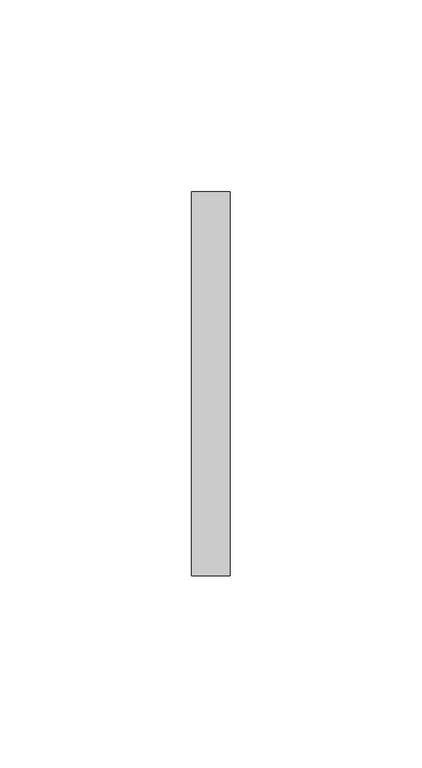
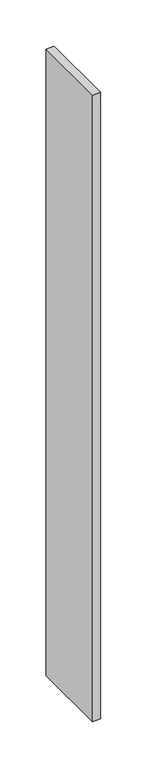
"""IFC4 building model written with IfcOpenShell, lengths in millimetres: furniture geometry, Fechamento Lateral do Painel de TV : Fechamento Lateral do Painel de TV."""

from ifc_helpers import new_model, si_unit, origin, origin_with_axes, place, context, project, spatial, polyline, outline, extrude, source, transform, mapped, element, save


def furniture_25fd1c1d(model_context):
    return source(origin(), model_context, "Body", "SweptSolid", [
        extrude(outline(polyline([(0.0, 0.0), (0.0, 100.0), (10.0, 100.0), (10.0, 0.0), (0.0, 0.0)])), origin_with_axes(), (0.0, 0.0, 1.0), 825.0),
    ])


if __name__ == "__main__":
    model = new_model("IFC4")
    model_context = context("Model", 3, world=origin())
    ifc_project = project(units=[si_unit("LENGTHUNIT", "METRE", prefix="MILLI")], contexts=[model_context])
    site = spatial("IfcSite", under=ifc_project)
    building = spatial("IfcBuilding", under=site)
    placement = place(None, origin())
    furniture_shape = furniture_25fd1c1d(model_context)
    element("IfcFurniture", 1, ObjectType="Fechamento Lateral do Painel de TV : Fechamento Lateral do Painel de TV", at=placement, inside=building, context=model_context, shape_type="MappedRepresentation", body=[
        mapped(furniture_shape, transform((0.0, 0.0, 0.0), x_axis=(1.0, 0.0, 0.0), y_axis=(0.0, 1.0, 0.0), z_axis=(0.0, 0.0, 1.0))),
    ])
    save(model, "model.ifc")
